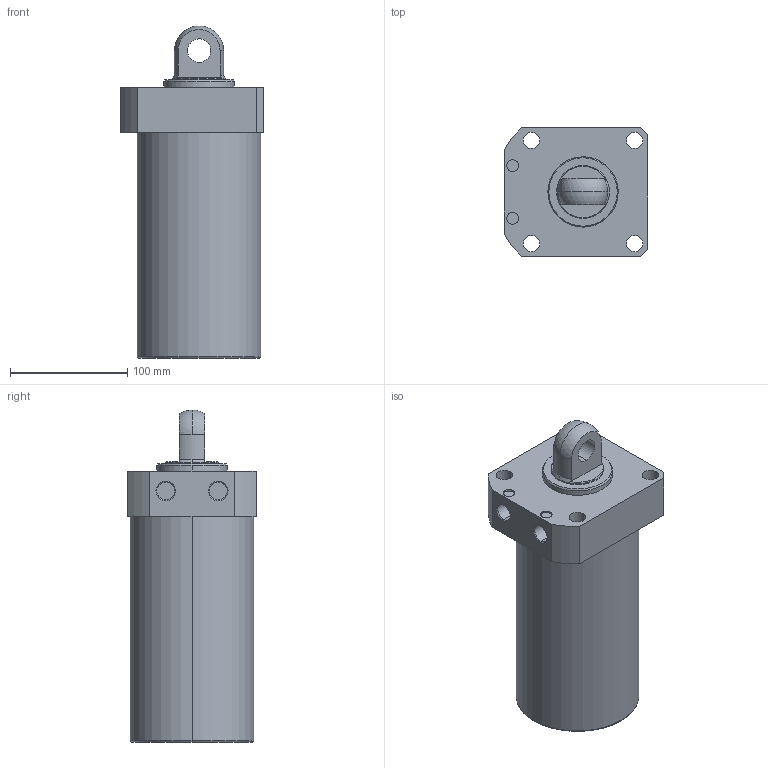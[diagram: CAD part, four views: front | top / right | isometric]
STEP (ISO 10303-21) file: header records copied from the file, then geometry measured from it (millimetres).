
FILE_DESCRIPTION (( 'STEP AP203' ), '1' );
FILE_NAME ('CLLR-105CP-145.STEP', '2019-12-18T08:19:03', ( '' ), ( '' ), 'SwSTEP 2.0', 'SolidWorks 2015', '' );
FILE_SCHEMA (( 'CONFIG_CONTROL_DESIGN' ));
Length unit declared in the file: millimetre
Products named in the file (1): CLLR-105CP-145
Bounding box: 122 x 110 x 283 mm (x, y, z)
Volume: 2188634.1 mm3; surface area: 120861.3 mm2
Topology: 1 solids, 1 shells, 59 faces, 139 edges, 89 vertices
Faces by surface type: cylinder 29, plane 18, cone 8, torus 2, sphere 2
Entity records: 1822 total; most frequent: DIRECTION 331, CARTESIAN_POINT 300, ORIENTED_EDGE 278, EDGE_CURVE 139, AXIS2_PLACEMENT_3D 136, VERTEX_POINT 89, CIRCLE 76, EDGE_LOOP 76
